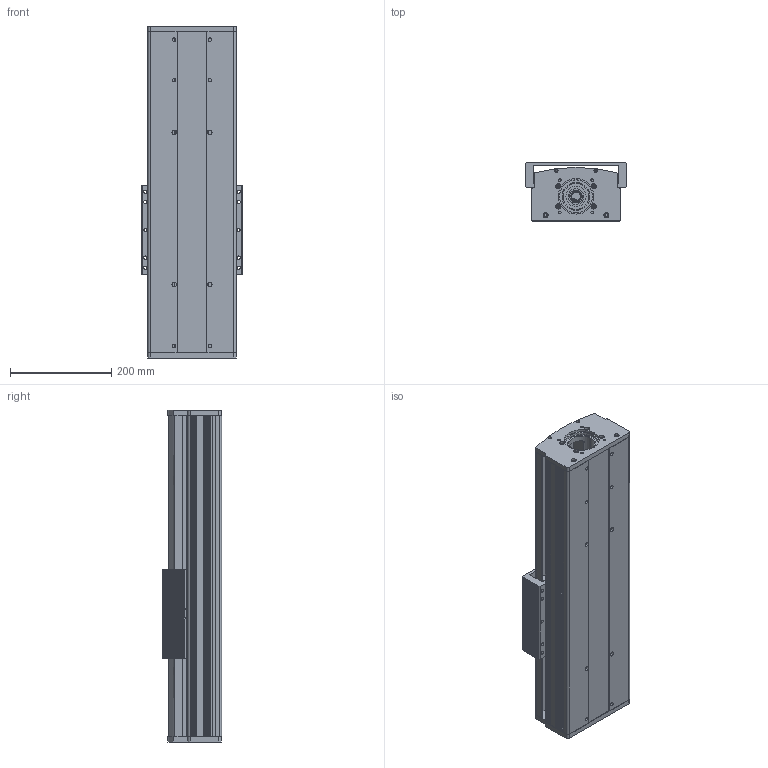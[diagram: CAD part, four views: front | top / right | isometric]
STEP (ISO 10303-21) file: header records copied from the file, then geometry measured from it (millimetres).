
FILE_DESCRIPTION (( 'STEP AP203' ), '1' );
FILE_NAME ('CF175-2-P300.STEP', '2016-02-23T08:36:55', ( 'Sky123.Org' ), ( 'Sky123.Org' ), 'SwSTEP 2.0', 'SolidWorks 2015', '' );
FILE_SCHEMA (( 'CONFIG_CONTROL_DESIGN' ));
Length unit declared in the file: millimetre
Products named in the file (13): CF175-2蹟譫釱; Y1-CF175-2-P1200-1547裔啣; Y1-CF175-2-P1200-1547臏倰第; Y1-HGR20-1500絳寢; CF-HGH20CA賑輸; CF175-2賑雄啣; SFU2505-4; 175-2梓袧嘐隅釱; X1-SFS2525-1185; 175-2侜督80萇儂釱; 175-2耜啣; CF175-2-P300; 175-2盓傅釱
Assembly tree (16 placements, depth 2):
  CF175-2-P300
    CF-HGH20CA賑輸  x4
    SFU2505-4
    X1-SFS2525-1185
    175-2耜啣
    175-2盓傅釱
    CF175-2蹟譫釱
    Y1-CF175-2-P1200-1547裔啣
    Y1-CF175-2-P1200-1547臏倰第
    Y1-HGR20-1500絳寢  x2
    CF175-2賑雄啣
    175-2梓袧嘐隅釱
    175-2侜督80萇儂釱
Bounding box: 200 x 116.8 x 655 mm (x, y, z)
Volume: 6261282.8 mm3; surface area: 1656306.7 mm2
Topology: 22 solids, 22 shells, 1372 faces, 3642 edges, 2412 vertices
Faces by surface type: cylinder 703, plane 645, cone 20, bspline 4
Entity records: 41050 total; most frequent: CARTESIAN_POINT 11042, DIRECTION 6176, ORIENTED_EDGE 5802, EDGE_CURVE 2901, AXIS2_PLACEMENT_3D 2295, VERTEX_POINT 1920, LINE 1586, VECTOR 1586
